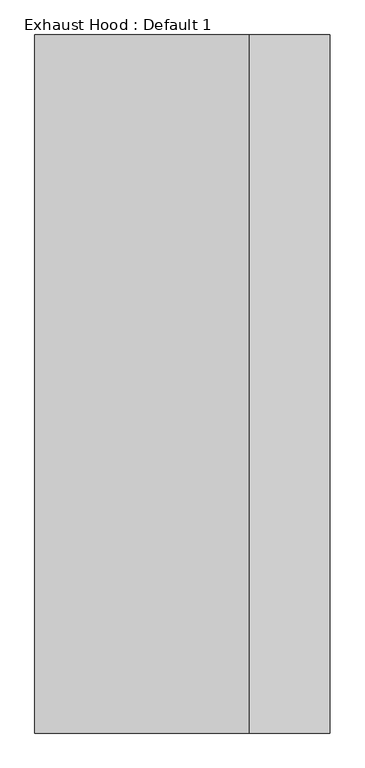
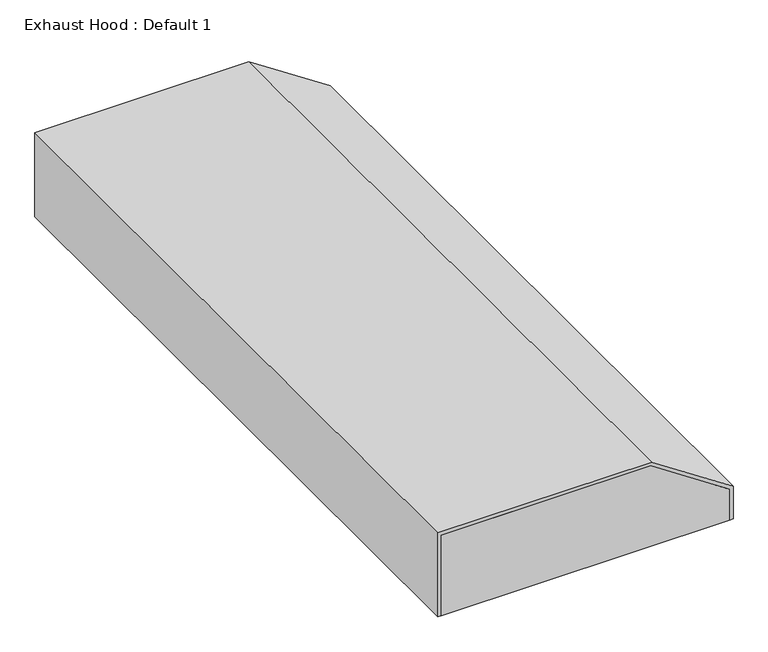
"""IFC4 building model written with IfcOpenShell, lengths in millimetres: proxy geometry, Exhaust Hood : Default 1."""

import ifcopenshell
import ifcopenshell.guid

model = None  # the IFC model being written
_history = None  # IfcOwnerHistory: only IFC2X3 demands one
_inside = {}  # id of a spatial element -> (the spatial element, [elements in it])
_under = {}  # id of a project, library or spatial element -> (it, [spatial elements below it])
_declared = {}  # id of a project -> (the project, [libraries it declares])
_typed = {}  # id of a type object -> (the type object, [elements of that type])
_made_of = {}  # id of a material, layer set ... -> (it, [elements and type objects made of it])


def new_model(schema):
    """Start an empty IFC model of exactly this schema.

    Asked for "IFC4X3", IfcOpenShell would pick the latest addendum, in which some entities
    have other attributes; the version numbers below select the first issue.
    IFC2X3 requires an IfcOwnerHistory on every rooted entity: one is made here for all.
    """
    global model, _history
    if schema == "IFC4X3":
        model = ifcopenshell.file(schema_version=(4, 3, 0, 0))
    else:
        model = ifcopenshell.file(schema=schema)
    _inside.clear()
    _under.clear()
    _declared.clear()
    _typed.clear()
    _made_of.clear()
    _history = None
    if model.schema == "IFC2X3":
        org = make("IfcOrganization", Name="unknown")
        user = make(
            "IfcPersonAndOrganization",
            ThePerson=make("IfcPerson", FamilyName="unknown"),
            TheOrganization=org,
        )
        app = make(
            "IfcApplication",
            ApplicationDeveloper=org,
            Version="unknown",
            ApplicationFullName="unknown",
            ApplicationIdentifier="unknown",
        )
        _history = make(
            "IfcOwnerHistory",
            OwningUser=user,
            OwningApplication=app,
            ChangeAction="ADDED",
            CreationDate=0,
        )
    return model


def make(cls, **values):
    """One entity of the class cls with the attributes given. An attribute that is None is left unset."""
    return model.create_entity(
        cls, **{name: value for name, value in values.items() if value is not None}
    )


def rooted(cls, **values):
    """An entity with a GlobalId (a new one), such as an element, a storey or a relation."""
    return make(cls, GlobalId=ifcopenshell.guid.new(), OwnerHistory=_history, **values)


def si_unit(unit_type, name, prefix=None):
    """IfcSIUnit, for example si_unit("LENGTHUNIT", "METRE", prefix="MILLI")."""
    return make("IfcSIUnit", UnitType=unit_type, Prefix=prefix, Name=name)


def assignment(units):
    """IfcUnitAssignment: the units of a project."""
    return None if units is None else make("IfcUnitAssignment", Units=units)


def point(xyz):
    """IfcCartesianPoint."""
    return None if xyz is None else make("IfcCartesianPoint", Coordinates=xyz)


def direction(xyz):
    """IfcDirection."""
    return None if xyz is None else make("IfcDirection", DirectionRatios=xyz)


def frame(location, z_axis=None, x_axis=None):
    """IfcAxis2Placement3D, a coordinate frame: its origin and axes. An axis left out is left unset."""
    return make(
        "IfcAxis2Placement3D",
        Location=point(location),
        Axis=direction(z_axis),
        RefDirection=direction(x_axis),
    )


def origin():
    """The frame at (0, 0, 0) with its axes left unset."""
    return frame((0.0, 0.0, 0.0))


def place(relative_to, where):
    """IfcLocalPlacement: puts the frame where relative to a parent placement (None: the world)."""
    return make(
        "IfcLocalPlacement", PlacementRelTo=relative_to, RelativePlacement=where
    )


def context(
    kind, dimensions, precision=None, world=None, true_north=None, identifier=None
):
    """IfcGeometricRepresentationContext, for example the 3D "Model" context."""
    return make(
        "IfcGeometricRepresentationContext",
        ContextIdentifier=identifier,
        ContextType=kind,
        CoordinateSpaceDimension=dimensions,
        Precision=precision,
        WorldCoordinateSystem=world,
        TrueNorth=true_north,
    )


def project(units=None, contexts=None):
    """IfcProject with its units and contexts."""
    return rooted(
        "IfcProject",
        Name="project",
        RepresentationContexts=contexts,
        UnitsInContext=assignment(units),
    )


def spatial(cls, under=None, at=None, **own):
    """A site, building, storey or space (cls), placed at a placement, below another one or the project."""
    s = rooted(cls, ObjectPlacement=at, **own)
    if under is not None:
        _under.setdefault(under.id(), (under, []))[1].append(s)
    return s


def polyline(points):
    """IfcPolyline through the points."""
    return make("IfcPolyline", Points=[point(p) for p in points])


def outline(outer, holes=None, kind="AREA"):
    """IfcArbitraryClosedProfileDef: a profile drawn as a closed curve; with holes, ...WithVoids."""
    if holes is None:
        return make("IfcArbitraryClosedProfileDef", ProfileType=kind, OuterCurve=outer)
    return make(
        "IfcArbitraryProfileDefWithVoids",
        ProfileType=kind,
        OuterCurve=outer,
        InnerCurves=holes,
    )


def extrude(swept, where, along, depth):
    """IfcExtrudedAreaSolid: the profile swept, set in the frame where, extruded along a direction by depth."""
    return make(
        "IfcExtrudedAreaSolid",
        SweptArea=swept,
        Position=where,
        ExtrudedDirection=direction(along),
        Depth=depth,
    )


def shape(context_of_items, identifier, shape_type, items):
    """IfcShapeRepresentation: the items that make up one representation, for example the "Body"."""
    return make(
        "IfcShapeRepresentation",
        ContextOfItems=context_of_items,
        RepresentationIdentifier=identifier,
        RepresentationType=shape_type,
        Items=items,
    )


def source(mapping_origin, context_of_items, identifier, shape_type, items):
    """IfcRepresentationMap: a shape defined once, which mapped items show again and again."""
    return make(
        "IfcRepresentationMap",
        MappingOrigin=mapping_origin,
        MappedRepresentation=shape(context_of_items, identifier, shape_type, items),
    )


def transform(
    local_origin,
    x_axis=None,
    y_axis=None,
    z_axis=None,
    scale=None,
    scale2=None,
    scale3=None,
    uniform=True,
):
    """IfcCartesianTransformationOperator3D, or its non-uniform kind. x_axis, y_axis, z_axis: its Axis1, 2, 3."""
    if uniform:
        return make(
            "IfcCartesianTransformationOperator3D",
            Axis1=direction(x_axis),
            Axis2=direction(y_axis),
            LocalOrigin=point(local_origin),
            Scale=scale,
            Axis3=direction(z_axis),
        )
    return make(
        "IfcCartesianTransformationOperator3DnonUniform",
        Axis1=direction(x_axis),
        Axis2=direction(y_axis),
        LocalOrigin=point(local_origin),
        Scale=scale,
        Axis3=direction(z_axis),
        Scale2=scale2,
        Scale3=scale3,
    )


def mapped(mapping_source, mapping_target):
    """IfcMappedItem: shows the shape of a source again, moved by a transform."""
    return make(
        "IfcMappedItem", MappingSource=mapping_source, MappingTarget=mapping_target
    )


def made_of(thing, what):
    """Note that an element or type object is made of a material, layer set ...; save() writes the relation."""
    if what is not None:
        _made_of.setdefault(what.id(), (what, []))[1].append(thing)
    return thing


def element(
    cls,
    number,
    at=None,
    inside=None,
    cuts=None,
    type_object=None,
    material=None,
    context=None,
    identifier="Body",
    shape_type=None,
    held_by="IfcProductDefinitionShape",
    body=None,
    shapes=None,
    **own,
):
    """One element of the class cls, such as IfcWall. Its Tag is "e" and its number.

    at: its placement. inside: the storey or other place that contains it. cuts: it is an
    opening in that element (IfcRelVoidsElement). A single representation is given by context,
    identifier, shape_type and body (its items); several are given by shapes. held_by: the class
    of the entity that holds the representations. save() writes the other relations.
    """
    e = rooted(cls, Tag="e%d" % number, ObjectPlacement=at, **own)
    if body is not None:
        shapes = [shape(context, identifier, shape_type, body)]
    if shapes is not None:
        e.Representation = make(held_by, Representations=shapes)
    if inside is not None:
        _inside.setdefault(inside.id(), (inside, []))[1].append(e)
    if cuts is not None:
        rooted(
            "IfcRelVoidsElement", RelatingBuildingElement=cuts, RelatedOpeningElement=e
        )
    if type_object is not None:
        _typed.setdefault(type_object.id(), (type_object, []))[1].append(e)
    return made_of(e, material)


def aggregate(whole, parts):
    """IfcRelAggregates: a whole, such as a stair, and the parts it consists of."""
    return rooted("IfcRelAggregates", RelatingObject=whole, RelatedObjects=parts)


def save(model, path):
    """Write the relations noted so far, then the file.

    IfcRelAggregates (storeys below a building ...), IfcRelContainedInSpatialStructure (elements
    in a storey), IfcRelDefinesByType, IfcRelAssociatesMaterial and IfcRelDeclares: one each for
    every whole, place, type object, material and project.
    """
    for whole, parts in _under.values():
        aggregate(whole, parts)
    for where, things in _inside.values():
        rooted(
            "IfcRelContainedInSpatialStructure",
            RelatedElements=things,
            RelatingStructure=where,
        )
    for kind, things in _typed.values():
        rooted("IfcRelDefinesByType", RelatedObjects=things, RelatingType=kind)
    for what, things in _made_of.values():
        rooted("IfcRelAssociatesMaterial", RelatedObjects=things, RelatingMaterial=what)
    for by, libraries in _declared.values():
        rooted("IfcRelDeclares", RelatingContext=by, RelatedDefinitions=libraries)
    model.write(path)


def exhaust_hood_default_1_8daebe1e(model_context):
    return source(origin(), model_context, "Body", "SweptSolid", [
        extrude(outline(polyline([(2279.65, 366.1336282), (2279.65, 6.35), (2133.6, 6.35), (2133.6, 501.65), (2189.8842631, 501.65), (2279.65, 366.1336282)])), frame((0.0, 1193.8, 0.0), z_axis=(0.0, 1.0, 0.0), x_axis=(0.0, 0.0, 1.0)), (0.0, 0.0, 1.0), 6.35),
        extrude(outline(polyline([(2279.65, 366.1336282), (2279.65, 6.35), (2133.6, 6.35), (2133.6, 501.65), (2189.8842631, 501.65), (2279.65, 366.1336282)])), frame((0.0, 0.0, 0.0), z_axis=(0.0, 1.0, 0.0), x_axis=(0.0, 0.0, 1.0)), (0.0, 0.0, 1.0), 6.35),
        extrude(outline(polyline([(2286.0, 368.0459942), (2286.0, 0.0), (2133.6, 0.0), (2133.6, 6.35), (2279.65, 6.35), (2279.65, 366.1336282), (2189.8842631, 501.65), (2133.6, 501.65), (2133.6, 508.0), (2193.2947845, 508.0), (2286.0, 368.0459942)])), frame((0.0, 0.0, 0.0), z_axis=(0.0, 1.0, 0.0), x_axis=(0.0, 0.0, 1.0)), (0.0, 0.0, 1.0), 1200.15),
    ])


if __name__ == "__main__":
    model = new_model("IFC4")
    model_context = context("Model", 3, world=origin())
    ifc_project = project(units=[si_unit("LENGTHUNIT", "METRE", prefix="MILLI")], contexts=[model_context])
    site = spatial("IfcSite", under=ifc_project)
    building = spatial("IfcBuilding", under=site)
    placement = place(None, origin())
    exhaust_hood_default_1_shape = exhaust_hood_default_1_8daebe1e(model_context)
    element("IfcBuildingElementProxy", 1, Name="Exhaust Hood : Default 1", ObjectType="Exhaust Hood : Default 1", at=placement, inside=building, context=model_context, shape_type="MappedRepresentation", body=[
        mapped(exhaust_hood_default_1_shape, transform((0.0, 0.0, 0.0), x_axis=(1.0, 0.0, 0.0), y_axis=(0.0, 1.0, 0.0), z_axis=(0.0, 0.0, 1.0))),
    ])
    save(model, "model.ifc")
